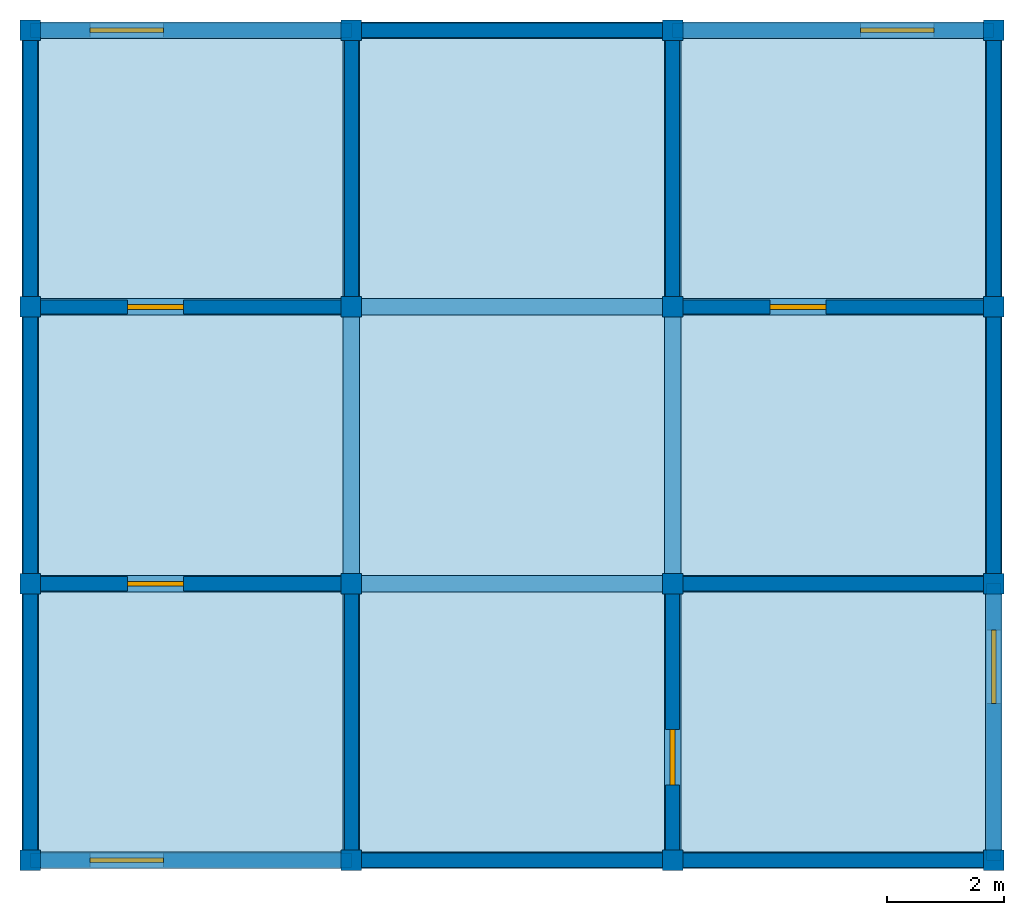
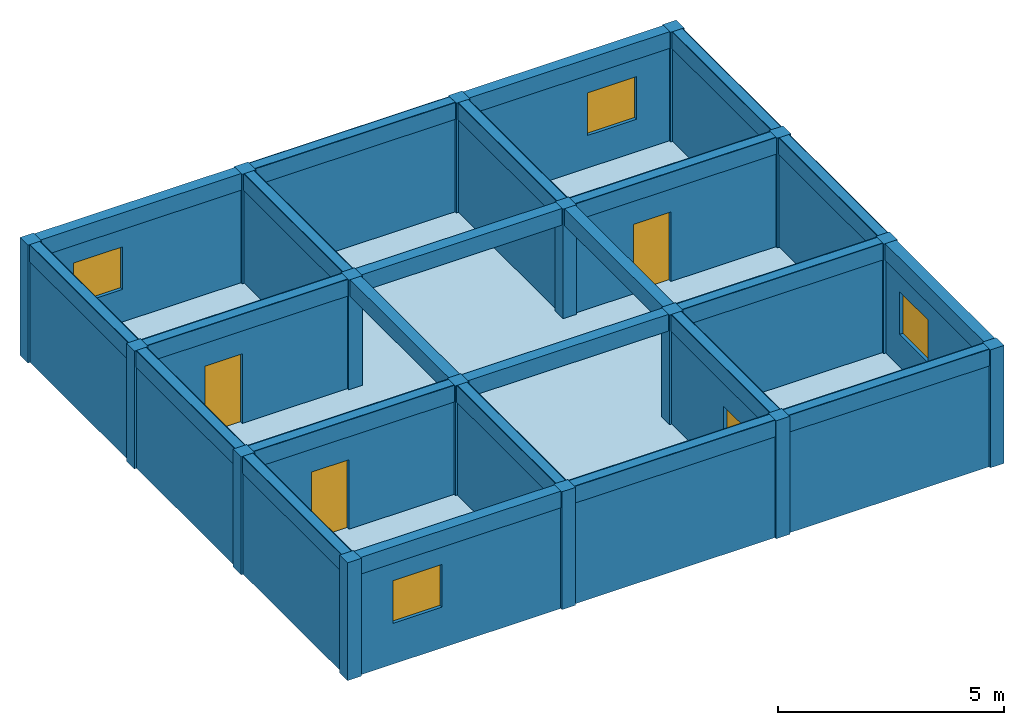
# One storey: 24 beams, 20 walls, 16 columns, 4 doors, 4 windows, 1 slab, 8 openings.
"""IFC4X3 building model written with IfcOpenShell, lengths in metres."""

from ifc_helpers import new_model, si_unit, frame, origin_with_axes, origin_2d, place, context, project, spatial, rectangle, extrude, material, element, fill, save


model = new_model("IFC4X3")

# Units and contexts
model_context = context("Model", 3, precision=1e-05, world=origin_with_axes())
ifc_project = project(units=[si_unit("LENGTHUNIT", "METRE"), si_unit("AREAUNIT", "SQUARE_METRE"), si_unit("VOLUMEUNIT", "CUBIC_METRE")], contexts=[model_context])

# Site, building, storey
site = spatial("IfcSite", under=ifc_project, Name="Antofagasta Parcel", CompositionType="ELEMENT")
building = spatial("IfcBuilding", under=site, Name="Nexo Block", CompositionType="ELEMENT")
storey = spatial("IfcBuildingStorey", under=building, Name="Level 8", CompositionType="ELEMENT", Elevation=22.27)

# Columns
ifc_material_1 = material(Name="Timber")
column_1_placement = place(None, frame((-8.2, -7.065, 22.266), z_axis=(0.0, 0.0, 1.0), x_axis=(1.0, 0.0, 0.0)))
element("IfcColumn", 1, at=column_1_placement, inside=storey, material=ifc_material_1, Name="Column 8.1", ObjectType="Structural Column", PredefinedType="USERDEFINED", context=model_context, shape_type="SweptSolid", body=[
    extrude(rectangle(XDim=0.35, YDim=0.35, at=origin_2d()), origin_with_axes(), (0.0, 0.0, 1.0), 3.181),
])
column_2_placement = place(None, frame((-8.2, -2.355, 22.266), z_axis=(0.0, 0.0, 1.0), x_axis=(1.0, 0.0, 0.0)))
element("IfcColumn", 2, at=column_2_placement, inside=storey, material=ifc_material_1, Name="Column 8.2", ObjectType="Corner Column", PredefinedType="USERDEFINED", context=model_context, shape_type="SweptSolid", body=[
    extrude(rectangle(XDim=0.35, YDim=0.35, at=origin_2d()), origin_with_axes(), (0.0, 0.0, 1.0), 3.181),
])
column_3_placement = place(None, frame((-8.2, 2.355, 22.266), z_axis=(0.0, 0.0, 1.0), x_axis=(1.0, 0.0, 0.0)))
element("IfcColumn", 3, at=column_3_placement, inside=storey, material=ifc_material_1, Name="Column 8.3", ObjectType="Structural Column", PredefinedType="PILASTER", context=model_context, shape_type="SweptSolid", body=[
    extrude(rectangle(XDim=0.35, YDim=0.35, at=origin_2d()), origin_with_axes(), (0.0, 0.0, 1.0), 3.181),
])
column_4_placement = place(None, frame((-8.2, 7.065, 22.266), z_axis=(0.0, 0.0, 1.0), x_axis=(1.0, 0.0, 0.0)))
element("IfcColumn", 4, at=column_4_placement, inside=storey, material=ifc_material_1, Name="Column 8.4", ObjectType="Core Column", PredefinedType="COLUMN", context=model_context, shape_type="SweptSolid", body=[
    extrude(rectangle(XDim=0.35, YDim=0.35, at=origin_2d()), origin_with_axes(), (0.0, 0.0, 1.0), 3.181),
])
for number, where, z_axis, x_axis, name in (
    (5, (-2.733, -7.065, 22.266), (0.0, 0.0, 1.0), (1.0, 0.0, 0.0), "Column 8.5"),
    (6, (-2.733, -2.355, 22.266), (0.0, 0.0, 1.0), (1.0, 0.0, 0.0), "Column 8.6"),
):
    element("IfcColumn", number, at=place(None, frame(where, z_axis=z_axis, x_axis=x_axis)), inside=storey, material=ifc_material_1, Name=name, ObjectType="Structural Column", PredefinedType="PILASTER", context=model_context, shape_type="SweptSolid", body=[
        extrude(rectangle(XDim=0.35, YDim=0.35, at=origin_2d()), origin_with_axes(), (0.0, 0.0, 1.0), 3.181),
    ])
column_5_placement = place(None, frame((-2.733, 2.355, 22.266), z_axis=(0.0, 0.0, 1.0), x_axis=(1.0, 0.0, 0.0)))
element("IfcColumn", 7, at=column_5_placement, inside=storey, material=ifc_material_1, Name="Column 8.7", ObjectType="Structural Column", PredefinedType="USERDEFINED", context=model_context, shape_type="SweptSolid", body=[
    extrude(rectangle(XDim=0.35, YDim=0.35, at=origin_2d()), origin_with_axes(), (0.0, 0.0, 1.0), 3.181),
])
column_6_placement = place(None, frame((-2.733, 7.065, 22.266), z_axis=(0.0, 0.0, 1.0), x_axis=(1.0, 0.0, 0.0)))
element("IfcColumn", 8, at=column_6_placement, inside=storey, material=ifc_material_1, Name="Column 8.8", ObjectType="Corner Column", PredefinedType="PILASTER", context=model_context, shape_type="SweptSolid", body=[
    extrude(rectangle(XDim=0.35, YDim=0.35, at=origin_2d()), origin_with_axes(), (0.0, 0.0, 1.0), 3.181),
])
column_7_placement = place(None, frame((2.734, -7.065, 22.266), z_axis=(0.0, 0.0, 1.0), x_axis=(1.0, 0.0, 0.0)))
element("IfcColumn", 9, at=column_7_placement, inside=storey, material=ifc_material_1, Name="Column 8.9", ObjectType="Facade Column", PredefinedType="COLUMN", context=model_context, shape_type="SweptSolid", body=[
    extrude(rectangle(XDim=0.35, YDim=0.35, at=origin_2d()), origin_with_axes(), (0.0, 0.0, 1.0), 3.181),
])
column_8_placement = place(None, frame((2.734, -2.355, 22.266), z_axis=(0.0, 0.0, 1.0), x_axis=(1.0, 0.0, 0.0)))
element("IfcColumn", 10, at=column_8_placement, inside=storey, material=ifc_material_1, Name="Column 8.10", ObjectType="Facade Column", PredefinedType="PILASTER", context=model_context, shape_type="SweptSolid", body=[
    extrude(rectangle(XDim=0.35, YDim=0.35, at=origin_2d()), origin_with_axes(), (0.0, 0.0, 1.0), 3.181),
])
column_9_placement = place(None, frame((2.734, 2.355, 22.266), z_axis=(0.0, 0.0, 1.0), x_axis=(1.0, 0.0, 0.0)))
element("IfcColumn", 11, at=column_9_placement, inside=storey, material=ifc_material_1, Name="Column 8.11", ObjectType="Corner Column", PredefinedType="USERDEFINED", context=model_context, shape_type="SweptSolid", body=[
    extrude(rectangle(XDim=0.35, YDim=0.35, at=origin_2d()), origin_with_axes(), (0.0, 0.0, 1.0), 3.181),
])
column_10_placement = place(None, frame((2.734, 7.065, 22.266), z_axis=(0.0, 0.0, 1.0), x_axis=(1.0, 0.0, 0.0)))
element("IfcColumn", 12, at=column_10_placement, inside=storey, material=ifc_material_1, Name="Column 8.12", ObjectType="Structural Column", PredefinedType="PILASTER", context=model_context, shape_type="SweptSolid", body=[
    extrude(rectangle(XDim=0.35, YDim=0.35, at=origin_2d()), origin_with_axes(), (0.0, 0.0, 1.0), 3.181),
])
column_11_placement = place(None, frame((8.201, -7.065, 22.266), z_axis=(0.0, 0.0, 1.0), x_axis=(1.0, 0.0, 0.0)))
element("IfcColumn", 13, at=column_11_placement, inside=storey, material=ifc_material_1, Name="Column 8.13", ObjectType="Corner Column", PredefinedType="COLUMN", context=model_context, shape_type="SweptSolid", body=[
    extrude(rectangle(XDim=0.35, YDim=0.35, at=origin_2d()), origin_with_axes(), (0.0, 0.0, 1.0), 3.181),
])
column_12_placement = place(None, frame((8.201, -2.355, 22.266), z_axis=(0.0, 0.0, 1.0), x_axis=(1.0, 0.0, 0.0)))
element("IfcColumn", 14, at=column_12_placement, inside=storey, material=ifc_material_1, Name="Column 8.14", ObjectType="Facade Column", PredefinedType="USERDEFINED", context=model_context, shape_type="SweptSolid", body=[
    extrude(rectangle(XDim=0.35, YDim=0.35, at=origin_2d()), origin_with_axes(), (0.0, 0.0, 1.0), 3.181),
])
column_13_placement = place(None, frame((8.201, 2.355, 22.266), z_axis=(0.0, 0.0, 1.0), x_axis=(1.0, 0.0, 0.0)))
element("IfcColumn", 15, at=column_13_placement, inside=storey, material=ifc_material_1, Name="Column 8.15", ObjectType="Corner Column", PredefinedType="COLUMN", context=model_context, shape_type="SweptSolid", body=[
    extrude(rectangle(XDim=0.35, YDim=0.35, at=origin_2d()), origin_with_axes(), (0.0, 0.0, 1.0), 3.181),
])
column_14_placement = place(None, frame((8.201, 7.065, 22.266), z_axis=(0.0, 0.0, 1.0), x_axis=(1.0, 0.0, 0.0)))
element("IfcColumn", 16, at=column_14_placement, inside=storey, material=ifc_material_1, Name="Column 8.16", ObjectType="Corner Column", PredefinedType="PILASTER", context=model_context, shape_type="SweptSolid", body=[
    extrude(rectangle(XDim=0.35, YDim=0.35, at=origin_2d()), origin_with_axes(), (0.0, 0.0, 1.0), 3.181),
])

# Beams
beam_1_placement = place(None, frame((-5.466, -7.065, 24.997), z_axis=(0.0, 0.0, 1.0), x_axis=(1.0, 0.0, 0.0)))
element("IfcBeam", 17, at=beam_1_placement, inside=storey, material=ifc_material_1, Name="Beam 8.1", ObjectType="Secondary Beam", PredefinedType="NOTDEFINED", context=model_context, shape_type="SweptSolid", body=[
    extrude(rectangle(XDim=5.467, YDim=0.28, at=origin_2d()), origin_with_axes(), (0.0, 0.0, 1.0), 0.45),
])
beam_2_placement = place(None, frame((0.0, -7.065, 24.997), z_axis=(0.0, 0.0, 1.0), x_axis=(1.0, 0.0, 0.0)))
element("IfcBeam", 18, at=beam_2_placement, inside=storey, material=ifc_material_1, Name="Beam 8.2", ObjectType="Secondary Beam", PredefinedType="T_BEAM", context=model_context, shape_type="SweptSolid", body=[
    extrude(rectangle(XDim=5.467, YDim=0.28, at=origin_2d()), origin_with_axes(), (0.0, 0.0, 1.0), 0.45),
])
beam_3_placement = place(None, frame((5.468, -7.065, 24.997), z_axis=(0.0, 0.0, 1.0), x_axis=(1.0, 0.0, 0.0)))
element("IfcBeam", 19, at=beam_3_placement, inside=storey, material=ifc_material_1, Name="Beam 8.3", ObjectType="Rafter Beam", PredefinedType="BEAM", context=model_context, shape_type="SweptSolid", body=[
    extrude(rectangle(XDim=5.467, YDim=0.28, at=origin_2d()), origin_with_axes(), (0.0, 0.0, 1.0), 0.45),
])
beam_4_placement = place(None, frame((-5.466, -2.355, 24.997), z_axis=(0.0, 0.0, 1.0), x_axis=(1.0, 0.0, 0.0)))
element("IfcBeam", 20, at=beam_4_placement, inside=storey, material=ifc_material_1, Name="Beam 8.4", ObjectType="Primary Beam", PredefinedType="JOIST", context=model_context, shape_type="SweptSolid", body=[
    extrude(rectangle(XDim=5.467, YDim=0.28, at=origin_2d()), origin_with_axes(), (0.0, 0.0, 1.0), 0.45),
])
beam_5_placement = place(None, frame((0.0, -2.355, 24.997), z_axis=(0.0, 0.0, 1.0), x_axis=(1.0, 0.0, 0.0)))
element("IfcBeam", 21, at=beam_5_placement, inside=storey, material=ifc_material_1, Name="Beam 8.5", ObjectType="Rafter Beam", PredefinedType="LINTEL", context=model_context, shape_type="SweptSolid", body=[
    extrude(rectangle(XDim=5.467, YDim=0.28, at=origin_2d()), origin_with_axes(), (0.0, 0.0, 1.0), 0.45),
])
beam_6_placement = place(None, frame((5.468, -2.355, 24.997), z_axis=(0.0, 0.0, 1.0), x_axis=(1.0, 0.0, 0.0)))
element("IfcBeam", 22, at=beam_6_placement, inside=storey, material=ifc_material_1, Name="Beam 8.6", ObjectType="Primary Beam", PredefinedType="SPANDREL", context=model_context, shape_type="SweptSolid", body=[
    extrude(rectangle(XDim=5.467, YDim=0.28, at=origin_2d()), origin_with_axes(), (0.0, 0.0, 1.0), 0.45),
])
beam_7_placement = place(None, frame((-5.466, 2.355, 24.997), z_axis=(0.0, 0.0, 1.0), x_axis=(1.0, 0.0, 0.0)))
element("IfcBeam", 23, at=beam_7_placement, inside=storey, material=ifc_material_1, Name="Beam 8.7", ObjectType="Primary Beam", PredefinedType="NOTDEFINED", context=model_context, shape_type="SweptSolid", body=[
    extrude(rectangle(XDim=5.467, YDim=0.28, at=origin_2d()), origin_with_axes(), (0.0, 0.0, 1.0), 0.45),
])
beam_8_placement = place(None, frame((0.0, 2.355, 24.997), z_axis=(0.0, 0.0, 1.0), x_axis=(1.0, 0.0, 0.0)))
element("IfcBeam", 24, at=beam_8_placement, inside=storey, material=ifc_material_1, Name="Beam 8.8", ObjectType="Primary Beam", PredefinedType="HOLLOWCORE", context=model_context, shape_type="SweptSolid", body=[
    extrude(rectangle(XDim=5.467, YDim=0.28, at=origin_2d()), origin_with_axes(), (0.0, 0.0, 1.0), 0.45),
])
beam_9_placement = place(None, frame((5.468, 2.355, 24.997), z_axis=(0.0, 0.0, 1.0), x_axis=(1.0, 0.0, 0.0)))
element("IfcBeam", 25, at=beam_9_placement, inside=storey, material=ifc_material_1, Name="Beam 8.9", ObjectType="Ridge Beam", PredefinedType="SPANDREL", context=model_context, shape_type="SweptSolid", body=[
    extrude(rectangle(XDim=5.467, YDim=0.28, at=origin_2d()), origin_with_axes(), (0.0, 0.0, 1.0), 0.45),
])
beam_10_placement = place(None, frame((-5.466, 7.065, 24.997), z_axis=(0.0, 0.0, 1.0), x_axis=(1.0, 0.0, 0.0)))
element("IfcBeam", 26, at=beam_10_placement, inside=storey, material=ifc_material_1, Name="Beam 8.10", ObjectType="Ridge Beam", PredefinedType="BEAM", context=model_context, shape_type="SweptSolid", body=[
    extrude(rectangle(XDim=5.467, YDim=0.28, at=origin_2d()), origin_with_axes(), (0.0, 0.0, 1.0), 0.45),
])
beam_11_placement = place(None, frame((0.0, 7.065, 24.997), z_axis=(0.0, 0.0, 1.0), x_axis=(1.0, 0.0, 0.0)))
element("IfcBeam", 27, at=beam_11_placement, inside=storey, material=ifc_material_1, Name="Beam 8.11", ObjectType="Primary Beam", PredefinedType="T_BEAM", context=model_context, shape_type="SweptSolid", body=[
    extrude(rectangle(XDim=5.467, YDim=0.28, at=origin_2d()), origin_with_axes(), (0.0, 0.0, 1.0), 0.45),
])
beam_12_placement = place(None, frame((5.468, 7.065, 24.997), z_axis=(0.0, 0.0, 1.0), x_axis=(1.0, 0.0, 0.0)))
element("IfcBeam", 28, at=beam_12_placement, inside=storey, material=ifc_material_1, Name="Beam 8.12", ObjectType="Primary Beam", PredefinedType="NOTDEFINED", context=model_context, shape_type="SweptSolid", body=[
    extrude(rectangle(XDim=5.467, YDim=0.28, at=origin_2d()), origin_with_axes(), (0.0, 0.0, 1.0), 0.45),
])
beam_13_placement = place(None, frame((-8.2, -4.71, 24.997), z_axis=(0.0, 0.0, 1.0), x_axis=(0.0, 1.0, 0.0)))
element("IfcBeam", 29, at=beam_13_placement, inside=storey, material=ifc_material_1, Name="Beam 8.13", ObjectType="Ridge Beam", PredefinedType="HOLLOWCORE", context=model_context, shape_type="SweptSolid", body=[
    extrude(rectangle(XDim=4.71, YDim=0.28, at=origin_2d()), origin_with_axes(), (0.0, 0.0, 1.0), 0.45),
])
beam_14_placement = place(None, frame((-8.2, 0.0, 24.997), z_axis=(0.0, 0.0, 1.0), x_axis=(0.0, 1.0, 0.0)))
element("IfcBeam", 30, at=beam_14_placement, inside=storey, material=ifc_material_1, Name="Beam 8.14", ObjectType="Primary Beam", PredefinedType="BEAM", context=model_context, shape_type="SweptSolid", body=[
    extrude(rectangle(XDim=4.71, YDim=0.28, at=origin_2d()), origin_with_axes(), (0.0, 0.0, 1.0), 0.45),
])
beam_15_placement = place(None, frame((-8.2, 4.71, 24.997), z_axis=(0.0, 0.0, 1.0), x_axis=(0.0, 1.0, 0.0)))
element("IfcBeam", 31, at=beam_15_placement, inside=storey, material=ifc_material_1, Name="Beam 8.15", ObjectType="Primary Beam", PredefinedType="LINTEL", context=model_context, shape_type="SweptSolid", body=[
    extrude(rectangle(XDim=4.71, YDim=0.28, at=origin_2d()), origin_with_axes(), (0.0, 0.0, 1.0), 0.45),
])
beam_16_placement = place(None, frame((-2.733, -4.71, 24.997), z_axis=(0.0, 0.0, 1.0), x_axis=(0.0, 1.0, 0.0)))
element("IfcBeam", 32, at=beam_16_placement, inside=storey, material=ifc_material_1, Name="Beam 8.16", ObjectType="Transfer Beam", PredefinedType="NOTDEFINED", context=model_context, shape_type="SweptSolid", body=[
    extrude(rectangle(XDim=4.71, YDim=0.28, at=origin_2d()), origin_with_axes(), (0.0, 0.0, 1.0), 0.45),
])
beam_17_placement = place(None, frame((-2.733, 0.0, 24.997), z_axis=(0.0, 0.0, 1.0), x_axis=(0.0, 1.0, 0.0)))
element("IfcBeam", 33, at=beam_17_placement, inside=storey, material=ifc_material_1, Name="Beam 8.17", ObjectType="Secondary Beam", PredefinedType="LINTEL", context=model_context, shape_type="SweptSolid", body=[
    extrude(rectangle(XDim=4.71, YDim=0.28, at=origin_2d()), origin_with_axes(), (0.0, 0.0, 1.0), 0.45),
])
beam_18_placement = place(None, frame((-2.733, 4.71, 24.997), z_axis=(0.0, 0.0, 1.0), x_axis=(0.0, 1.0, 0.0)))
element("IfcBeam", 34, at=beam_18_placement, inside=storey, material=ifc_material_1, Name="Beam 8.18", ObjectType="Primary Beam", PredefinedType="SPANDREL", context=model_context, shape_type="SweptSolid", body=[
    extrude(rectangle(XDim=4.71, YDim=0.28, at=origin_2d()), origin_with_axes(), (0.0, 0.0, 1.0), 0.45),
])
beam_19_placement = place(None, frame((2.734, -4.71, 24.997), z_axis=(0.0, 0.0, 1.0), x_axis=(0.0, 1.0, 0.0)))
element("IfcBeam", 35, at=beam_19_placement, inside=storey, material=ifc_material_1, Name="Beam 8.19", ObjectType="Transfer Beam", PredefinedType="SPANDREL", context=model_context, shape_type="SweptSolid", body=[
    extrude(rectangle(XDim=4.71, YDim=0.28, at=origin_2d()), origin_with_axes(), (0.0, 0.0, 1.0), 0.45),
])
beam_20_placement = place(None, frame((2.734, 0.0, 24.997), z_axis=(0.0, 0.0, 1.0), x_axis=(0.0, 1.0, 0.0)))
element("IfcBeam", 36, at=beam_20_placement, inside=storey, material=ifc_material_1, Name="Beam 8.20", ObjectType="Secondary Beam", PredefinedType="NOTDEFINED", context=model_context, shape_type="SweptSolid", body=[
    extrude(rectangle(XDim=4.71, YDim=0.28, at=origin_2d()), origin_with_axes(), (0.0, 0.0, 1.0), 0.45),
])
beam_21_placement = place(None, frame((2.734, 4.71, 24.997), z_axis=(0.0, 0.0, 1.0), x_axis=(0.0, 1.0, 0.0)))
element("IfcBeam", 37, at=beam_21_placement, inside=storey, material=ifc_material_1, Name="Beam 8.21", ObjectType="Primary Beam", PredefinedType="BEAM", context=model_context, shape_type="SweptSolid", body=[
    extrude(rectangle(XDim=4.71, YDim=0.28, at=origin_2d()), origin_with_axes(), (0.0, 0.0, 1.0), 0.45),
])
beam_22_placement = place(None, frame((8.201, -4.71, 24.997), z_axis=(0.0, 0.0, 1.0), x_axis=(0.0, 1.0, 0.0)))
element("IfcBeam", 38, at=beam_22_placement, inside=storey, material=ifc_material_1, Name="Beam 8.22", ObjectType="Primary Beam", PredefinedType="NOTDEFINED", context=model_context, shape_type="SweptSolid", body=[
    extrude(rectangle(XDim=4.71, YDim=0.28, at=origin_2d()), origin_with_axes(), (0.0, 0.0, 1.0), 0.45),
])
beam_23_placement = place(None, frame((8.201, 0.0, 24.997), z_axis=(0.0, 0.0, 1.0), x_axis=(0.0, 1.0, 0.0)))
element("IfcBeam", 39, at=beam_23_placement, inside=storey, material=ifc_material_1, Name="Beam 8.23", ObjectType="Secondary Beam", PredefinedType="USERDEFINED", context=model_context, shape_type="SweptSolid", body=[
    extrude(rectangle(XDim=4.71, YDim=0.28, at=origin_2d()), origin_with_axes(), (0.0, 0.0, 1.0), 0.45),
])
beam_24_placement = place(None, frame((8.201, 4.71, 24.997), z_axis=(0.0, 0.0, 1.0), x_axis=(0.0, 1.0, 0.0)))
element("IfcBeam", 40, at=beam_24_placement, inside=storey, material=ifc_material_1, Name="Beam 8.24", ObjectType="Primary Beam", PredefinedType="NOTDEFINED", context=model_context, shape_type="SweptSolid", body=[
    extrude(rectangle(XDim=4.71, YDim=0.28, at=origin_2d()), origin_with_axes(), (0.0, 0.0, 1.0), 0.45),
])

# Slab
ifc_material_2 = material(Name="Composite")
slab_placement = place(None, frame((0.0, 0.0, 22.27), z_axis=(0.0, 0.0, 1.0), x_axis=(1.0, 0.0, 0.0)))
element("IfcSlab", 41, at=slab_placement, inside=storey, material=ifc_material_2, Name="Slab 8", ObjectType="Floor Slab", PredefinedType="FLOOR", context=model_context, shape_type="SweptSolid", body=[
    extrude(rectangle(XDim=16.4, YDim=14.13, at=origin_2d()), origin_with_axes(), (0.0, 0.0, 1.0), 0.22),
])

# Wall, opening, door
ifc_material_3 = material(Name="CLT")
wall_1_placement = place(None, frame((-5.466, -2.355, 22.266), z_axis=(0.0, 0.0, 1.0), x_axis=(1.0, 0.0, 0.0)))
wall_1 = element("IfcWall", 42, at=wall_1_placement, inside=storey, material=ifc_material_3, Name="Wall 8.1", ObjectType="Corridor Partition", PredefinedType="SHEAR", context=model_context, shape_type="SweptSolid", body=[
    extrude(rectangle(XDim=5.467, YDim=0.244946, at=origin_2d()), origin_with_axes(), (0.0, 0.0, 1.0), 3.181),
])
opening_1_placement = place(None, frame((-6.066, -2.355, 22.266), z_axis=(0.0, 0.0, 1.0), x_axis=(1.0, 0.0, 0.0)))
opening_1 = element("IfcOpeningElement", 43, at=opening_1_placement, cuts=wall_1, Name="Door opening 8.1", ObjectType="Door Opening", PredefinedType="OPENING", context=model_context, shape_type="SweptSolid", body=[
    extrude(rectangle(XDim=0.95, YDim=0.324946, at=origin_2d()), origin_with_axes(), (0.0, 0.0, 1.0), 2.1),
])
door_1_placement = place(None, frame((-6.066, -2.355, 22.266), z_axis=(0.0, 0.0, 1.0), x_axis=(1.0, 0.0, 0.0)))
door_1 = element("IfcDoor", 44, at=door_1_placement, inside=storey, Name="Door 8.1", ObjectType="Interior Door", OverallHeight=2.1, OverallWidth=0.95, context=model_context, shape_type="SweptSolid", body=[
    extrude(rectangle(XDim=0.95, YDim=0.08, at=origin_2d()), origin_with_axes(), (0.0, 0.0, 1.0), 2.1),
])
fill(opening_1, door_1)

# Wall
ifc_material_4 = material(Name="Concrete")
wall_2_placement = place(None, frame((-2.7325, -4.71, 22.266), z_axis=(0.0, 0.0, 1.0), x_axis=(0.0, 1.0, 0.0)))
element("IfcWall", 45, at=wall_2_placement, inside=storey, material=ifc_material_4, Name="Wall 8.2", ObjectType="Corridor Partition", PredefinedType="STANDARD", context=model_context, shape_type="SweptSolid", body=[
    extrude(rectangle(XDim=4.71, YDim=0.244946, at=origin_2d()), origin_with_axes(), (0.0, 0.0, 1.0), 3.181),
])

# Wall, opening, window
wall_3_placement = place(None, frame((-5.466, -7.065, 22.266), z_axis=(0.0, 0.0, 1.0), x_axis=(1.0, 0.0, 0.0)))
wall_3 = element("IfcWall", 46, at=wall_3_placement, inside=storey, material=ifc_material_3, Name="Wall 8.3", ObjectType="Exterior Wall", PredefinedType="STANDARD", context=model_context, shape_type="SweptSolid", body=[
    extrude(rectangle(XDim=5.467, YDim=0.244946, at=origin_2d()), origin_with_axes(), (0.0, 0.0, 1.0), 3.181),
])
opening_2_placement = place(None, frame((-6.559, -7.065, 23.366), z_axis=(0.0, 0.0, 1.0), x_axis=(1.0, 0.0, 0.0)))
opening_2 = element("IfcOpeningElement", 47, at=opening_2_placement, cuts=wall_3, Name="Window opening 8.2", ObjectType="Window Opening", PredefinedType="OPENING", context=model_context, shape_type="SweptSolid", body=[
    extrude(rectangle(XDim=1.25, YDim=0.324946, at=origin_2d()), origin_with_axes(), (0.0, 0.0, 1.0), 1.15),
])
window_1_placement = place(None, frame((-6.559, -7.065, 23.366), z_axis=(0.0, 0.0, 1.0), x_axis=(1.0, 0.0, 0.0)))
window_1 = element("IfcWindow", 48, at=window_1_placement, inside=storey, Name="Window 8.2", ObjectType="Curtain Window", OverallHeight=1.15, OverallWidth=1.25, context=model_context, shape_type="SweptSolid", body=[
    extrude(rectangle(XDim=1.25, YDim=0.08, at=origin_2d()), origin_with_axes(), (0.0, 0.0, 1.0), 1.15),
])
fill(opening_2, window_1)

# Wall
ifc_material_5 = material(Name="Brick")
wall_4_placement = place(None, frame((-8.1995, -4.71, 22.266), z_axis=(0.0, 0.0, 1.0), x_axis=(0.0, 1.0, 0.0)))
element("IfcWall", 49, at=wall_4_placement, inside=storey, material=ifc_material_5, Name="Wall 8.4", ObjectType="Exterior Wall", PredefinedType="USERDEFINED", context=model_context, shape_type="SweptSolid", body=[
    extrude(rectangle(XDim=4.71, YDim=0.244946, at=origin_2d()), origin_with_axes(), (0.0, 0.0, 1.0), 3.181),
])

# Wall, opening, door
ifc_material_6 = material(Name="Gypsum")
wall_5_placement = place(None, frame((2.7335, -4.71, 22.266), z_axis=(0.0, 0.0, 1.0), x_axis=(0.0, 1.0, 0.0)))
wall_5 = element("IfcWall", 50, at=wall_5_placement, inside=storey, material=ifc_material_6, Name="Wall 8.5", ObjectType="Corridor Partition", PredefinedType="USERDEFINED", context=model_context, shape_type="SweptSolid", body=[
    extrude(rectangle(XDim=4.71, YDim=0.244946, at=origin_2d()), origin_with_axes(), (0.0, 0.0, 1.0), 3.181),
])
opening_3_placement = place(None, frame((2.733, -5.31, 22.266), z_axis=(0.0, 0.0, 1.0), x_axis=(0.0, 1.0, 0.0)))
opening_3 = element("IfcOpeningElement", 51, at=opening_3_placement, cuts=wall_5, Name="Door opening 8.3", ObjectType="Door Opening", PredefinedType="OPENING", context=model_context, shape_type="SweptSolid", body=[
    extrude(rectangle(XDim=0.95, YDim=0.324946, at=origin_2d()), origin_with_axes(), (0.0, 0.0, 1.0), 2.1),
])
door_2_placement = place(None, frame((2.733, -5.31, 22.266), z_axis=(0.0, 0.0, 1.0), x_axis=(0.0, 1.0, 0.0)))
door_2 = element("IfcDoor", 52, at=door_2_placement, inside=storey, Name="Door 8.3", ObjectType="Entry Door", OverallHeight=2.1, OverallWidth=0.95, context=model_context, shape_type="SweptSolid", body=[
    extrude(rectangle(XDim=0.95, YDim=0.08, at=origin_2d()), origin_with_axes(), (0.0, 0.0, 1.0), 2.1),
])
fill(opening_3, door_2)

# Walls
wall_6_placement = place(None, frame((0.0, -7.065, 22.266), z_axis=(0.0, 0.0, 1.0), x_axis=(1.0, 0.0, 0.0)))
element("IfcWall", 53, at=wall_6_placement, inside=storey, material=ifc_material_4, Name="Wall 8.6", ObjectType="Exterior Wall", PredefinedType="NOTDEFINED", context=model_context, shape_type="SweptSolid", body=[
    extrude(rectangle(XDim=5.467, YDim=0.244946, at=origin_2d()), origin_with_axes(), (0.0, 0.0, 1.0), 3.181),
])
wall_7_placement = place(None, frame((5.467, -2.355, 22.266), z_axis=(0.0, 0.0, 1.0), x_axis=(1.0, 0.0, 0.0)))
element("IfcWall", 54, at=wall_7_placement, inside=storey, material=ifc_material_5, Name="Wall 8.7", ObjectType="Corridor Partition", PredefinedType="USERDEFINED", context=model_context, shape_type="SweptSolid", body=[
    extrude(rectangle(XDim=5.467, YDim=0.244946, at=origin_2d()), origin_with_axes(), (0.0, 0.0, 1.0), 3.181),
])

# Wall, opening, window
wall_8_placement = place(None, frame((8.2005, -4.71, 22.266), z_axis=(0.0, 0.0, 1.0), x_axis=(0.0, 1.0, 0.0)))
wall_8 = element("IfcWall", 55, at=wall_8_placement, inside=storey, material=ifc_material_3, Name="Wall 8.8", ObjectType="Exterior Wall", PredefinedType="STANDARD", context=model_context, shape_type="SweptSolid", body=[
    extrude(rectangle(XDim=4.71, YDim=0.244946, at=origin_2d()), origin_with_axes(), (0.0, 0.0, 1.0), 3.181),
])
opening_4_placement = place(None, frame((8.2, -3.768, 23.366), z_axis=(0.0, 0.0, 1.0), x_axis=(0.0, 1.0, 0.0)))
opening_4 = element("IfcOpeningElement", 56, at=opening_4_placement, cuts=wall_8, Name="Window opening 8.4", ObjectType="Window Opening", PredefinedType="OPENING", context=model_context, shape_type="SweptSolid", body=[
    extrude(rectangle(XDim=1.25, YDim=0.324946, at=origin_2d()), origin_with_axes(), (0.0, 0.0, 1.0), 1.15),
])
window_2_placement = place(None, frame((8.2, -3.768, 23.366), z_axis=(0.0, 0.0, 1.0), x_axis=(0.0, 1.0, 0.0)))
window_2 = element("IfcWindow", 57, at=window_2_placement, inside=storey, Name="Window 8.4", ObjectType="Louvre Window", OverallHeight=1.15, OverallWidth=1.25, context=model_context, shape_type="SweptSolid", body=[
    extrude(rectangle(XDim=1.25, YDim=0.08, at=origin_2d()), origin_with_axes(), (0.0, 0.0, 1.0), 1.15),
])
fill(opening_4, window_2)

# Wall
wall_9_placement = place(None, frame((5.467, -7.065, 22.266), z_axis=(0.0, 0.0, 1.0), x_axis=(1.0, 0.0, 0.0)))
element("IfcWall", 58, at=wall_9_placement, inside=storey, material=ifc_material_6, Name="Wall 8.9", ObjectType="Exterior Wall", PredefinedType="POLYGONAL", context=model_context, shape_type="SweptSolid", body=[
    extrude(rectangle(XDim=5.467, YDim=0.244946, at=origin_2d()), origin_with_axes(), (0.0, 0.0, 1.0), 3.181),
])

# Wall, opening, door
wall_10_placement = place(None, frame((-5.466, 2.355, 22.266), z_axis=(0.0, 0.0, 1.0), x_axis=(1.0, 0.0, 0.0)))
wall_10 = element("IfcWall", 59, at=wall_10_placement, inside=storey, material=ifc_material_3, Name="Wall 8.10", ObjectType="Corridor Partition", PredefinedType="PARAPET", context=model_context, shape_type="SweptSolid", body=[
    extrude(rectangle(XDim=5.467, YDim=0.244946, at=origin_2d()), origin_with_axes(), (0.0, 0.0, 1.0), 3.181),
])
opening_5_placement = place(None, frame((-6.066, 2.355, 22.266), z_axis=(0.0, 0.0, 1.0), x_axis=(1.0, 0.0, 0.0)))
opening_5 = element("IfcOpeningElement", 60, at=opening_5_placement, cuts=wall_10, Name="Door opening 8.5", ObjectType="Door Opening", PredefinedType="OPENING", context=model_context, shape_type="SweptSolid", body=[
    extrude(rectangle(XDim=0.95, YDim=0.324946, at=origin_2d()), origin_with_axes(), (0.0, 0.0, 1.0), 2.1),
])
door_3_placement = place(None, frame((-6.066, 2.355, 22.266), z_axis=(0.0, 0.0, 1.0), x_axis=(1.0, 0.0, 0.0)))
door_3 = element("IfcDoor", 61, at=door_3_placement, inside=storey, Name="Door 8.5", ObjectType="Entry Door", OverallHeight=2.1, OverallWidth=0.95, context=model_context, shape_type="SweptSolid", body=[
    extrude(rectangle(XDim=0.95, YDim=0.08, at=origin_2d()), origin_with_axes(), (0.0, 0.0, 1.0), 2.1),
])
fill(opening_5, door_3)

# Wall
wall_11_placement = place(None, frame((-8.1995, 0.0, 22.266), z_axis=(0.0, 0.0, 1.0), x_axis=(0.0, 1.0, 0.0)))
element("IfcWall", 62, at=wall_11_placement, inside=storey, material=ifc_material_5, Name="Wall 8.11", ObjectType="Exterior Wall", PredefinedType="NOTDEFINED", context=model_context, shape_type="SweptSolid", body=[
    extrude(rectangle(XDim=4.71, YDim=0.244946, at=origin_2d()), origin_with_axes(), (0.0, 0.0, 1.0), 3.181),
])

# Wall, opening, door
wall_12_placement = place(None, frame((5.467, 2.355, 22.266), z_axis=(0.0, 0.0, 1.0), x_axis=(1.0, 0.0, 0.0)))
wall_12 = element("IfcWall", 63, at=wall_12_placement, inside=storey, material=ifc_material_4, Name="Wall 8.12", ObjectType="Corridor Partition", PredefinedType="PARTITIONING", context=model_context, shape_type="SweptSolid", body=[
    extrude(rectangle(XDim=5.467, YDim=0.244946, at=origin_2d()), origin_with_axes(), (0.0, 0.0, 1.0), 3.181),
])
opening_6_placement = place(None, frame((4.867, 2.355, 22.266), z_axis=(0.0, 0.0, 1.0), x_axis=(1.0, 0.0, 0.0)))
opening_6 = element("IfcOpeningElement", 64, at=opening_6_placement, cuts=wall_12, Name="Door opening 8.7", ObjectType="Door Opening", PredefinedType="OPENING", context=model_context, shape_type="SweptSolid", body=[
    extrude(rectangle(XDim=0.95, YDim=0.324946, at=origin_2d()), origin_with_axes(), (0.0, 0.0, 1.0), 2.1),
])
door_4_placement = place(None, frame((4.867, 2.355, 22.266), z_axis=(0.0, 0.0, 1.0), x_axis=(1.0, 0.0, 0.0)))
door_4 = element("IfcDoor", 65, at=door_4_placement, inside=storey, Name="Door 8.7", ObjectType="Interior Door", OverallHeight=2.1, OverallWidth=0.95, context=model_context, shape_type="SweptSolid", body=[
    extrude(rectangle(XDim=0.95, YDim=0.08, at=origin_2d()), origin_with_axes(), (0.0, 0.0, 1.0), 2.1),
])
fill(opening_6, door_4)

# Wall
wall_13_placement = place(None, frame((8.2005, 0.0, 22.266), z_axis=(0.0, 0.0, 1.0), x_axis=(0.0, 1.0, 0.0)))
element("IfcWall", 66, at=wall_13_placement, inside=storey, material=ifc_material_4, Name="Wall 8.13", ObjectType="Exterior Wall", PredefinedType="MOVABLE", context=model_context, shape_type="SweptSolid", body=[
    extrude(rectangle(XDim=4.71, YDim=0.244946, at=origin_2d()), origin_with_axes(), (0.0, 0.0, 1.0), 3.181),
])

# Wall, opening, window
wall_14_placement = place(None, frame((-5.466, 7.065, 22.266), z_axis=(0.0, 0.0, 1.0), x_axis=(1.0, 0.0, 0.0)))
wall_14 = element("IfcWall", 67, at=wall_14_placement, inside=storey, material=ifc_material_5, Name="Wall 8.14", ObjectType="Exterior Wall", PredefinedType="ELEMENTEDWALL", context=model_context, shape_type="SweptSolid", body=[
    extrude(rectangle(XDim=5.467, YDim=0.244946, at=origin_2d()), origin_with_axes(), (0.0, 0.0, 1.0), 3.181),
])
opening_7_placement = place(None, frame((-6.559, 7.065, 23.366), z_axis=(0.0, 0.0, 1.0), x_axis=(1.0, 0.0, 0.0)))
opening_7 = element("IfcOpeningElement", 68, at=opening_7_placement, cuts=wall_14, Name="Window opening 8.6", ObjectType="Window Opening", PredefinedType="OPENING", context=model_context, shape_type="SweptSolid", body=[
    extrude(rectangle(XDim=1.25, YDim=0.324946, at=origin_2d()), origin_with_axes(), (0.0, 0.0, 1.0), 1.15),
])
window_3_placement = place(None, frame((-6.559, 7.065, 23.366), z_axis=(0.0, 0.0, 1.0), x_axis=(1.0, 0.0, 0.0)))
window_3 = element("IfcWindow", 69, at=window_3_placement, inside=storey, Name="Window 8.6", ObjectType="Curtain Window", OverallHeight=1.15, OverallWidth=1.25, context=model_context, shape_type="SweptSolid", body=[
    extrude(rectangle(XDim=1.25, YDim=0.08, at=origin_2d()), origin_with_axes(), (0.0, 0.0, 1.0), 1.15),
])
fill(opening_7, window_3)

# Walls
wall_15_placement = place(None, frame((-2.7325, 4.71, 22.266), z_axis=(0.0, 0.0, 1.0), x_axis=(0.0, 1.0, 0.0)))
element("IfcWall", 70, at=wall_15_placement, inside=storey, material=ifc_material_4, Name="Wall 8.15", ObjectType="Corridor Partition", PredefinedType="STANDARD", context=model_context, shape_type="SweptSolid", body=[
    extrude(rectangle(XDim=4.71, YDim=0.244946, at=origin_2d()), origin_with_axes(), (0.0, 0.0, 1.0), 3.181),
])
wall_16_placement = place(None, frame((-8.1995, 4.71, 22.266), z_axis=(0.0, 0.0, 1.0), x_axis=(0.0, 1.0, 0.0)))
element("IfcWall", 71, at=wall_16_placement, inside=storey, material=ifc_material_6, Name="Wall 8.16", ObjectType="Exterior Wall", PredefinedType="ELEMENTEDWALL", context=model_context, shape_type="SweptSolid", body=[
    extrude(rectangle(XDim=4.71, YDim=0.244946, at=origin_2d()), origin_with_axes(), (0.0, 0.0, 1.0), 3.181),
])
wall_17_placement = place(None, frame((0.0, 7.065, 22.266), z_axis=(0.0, 0.0, 1.0), x_axis=(1.0, 0.0, 0.0)))
element("IfcWall", 72, at=wall_17_placement, inside=storey, material=ifc_material_5, Name="Wall 8.17", ObjectType="Exterior Wall", PredefinedType="PLUMBINGWALL", context=model_context, shape_type="SweptSolid", body=[
    extrude(rectangle(XDim=5.467, YDim=0.244946, at=origin_2d()), origin_with_axes(), (0.0, 0.0, 1.0), 3.181),
])
wall_18_placement = place(None, frame((2.7335, 4.71, 22.266), z_axis=(0.0, 0.0, 1.0), x_axis=(0.0, 1.0, 0.0)))
element("IfcWall", 73, at=wall_18_placement, inside=storey, material=ifc_material_3, Name="Wall 8.18", ObjectType="Corridor Partition", PredefinedType="PARTITIONING", context=model_context, shape_type="SweptSolid", body=[
    extrude(rectangle(XDim=4.71, YDim=0.244946, at=origin_2d()), origin_with_axes(), (0.0, 0.0, 1.0), 3.181),
])

# Wall, opening, window
wall_19_placement = place(None, frame((5.467, 7.065, 22.266), z_axis=(0.0, 0.0, 1.0), x_axis=(1.0, 0.0, 0.0)))
wall_19 = element("IfcWall", 74, at=wall_19_placement, inside=storey, material=ifc_material_5, Name="Wall 8.19", ObjectType="Exterior Wall", PredefinedType="USERDEFINED", context=model_context, shape_type="SweptSolid", body=[
    extrude(rectangle(XDim=5.467, YDim=0.244946, at=origin_2d()), origin_with_axes(), (0.0, 0.0, 1.0), 3.181),
])
opening_8_placement = place(None, frame((6.56, 7.065, 23.366), z_axis=(0.0, 0.0, 1.0), x_axis=(1.0, 0.0, 0.0)))
opening_8 = element("IfcOpeningElement", 75, at=opening_8_placement, cuts=wall_19, Name="Window opening 8.8", ObjectType="Window Opening", PredefinedType="OPENING", context=model_context, shape_type="SweptSolid", body=[
    extrude(rectangle(XDim=1.25, YDim=0.324946, at=origin_2d()), origin_with_axes(), (0.0, 0.0, 1.0), 1.15),
])
window_4_placement = place(None, frame((6.56, 7.065, 23.366), z_axis=(0.0, 0.0, 1.0), x_axis=(1.0, 0.0, 0.0)))
window_4 = element("IfcWindow", 76, at=window_4_placement, inside=storey, Name="Window 8.8", ObjectType="Louvre Window", OverallHeight=1.15, OverallWidth=1.25, context=model_context, shape_type="SweptSolid", body=[
    extrude(rectangle(XDim=1.25, YDim=0.08, at=origin_2d()), origin_with_axes(), (0.0, 0.0, 1.0), 1.15),
])
fill(opening_8, window_4)

# Wall
wall_20_placement = place(None, frame((8.2005, 4.71, 22.266), z_axis=(0.0, 0.0, 1.0), x_axis=(0.0, 1.0, 0.0)))
element("IfcWall", 77, at=wall_20_placement, inside=storey, material=ifc_material_6, Name="Wall 8.20", ObjectType="Exterior Wall", PredefinedType="USERDEFINED", context=model_context, shape_type="SweptSolid", body=[
    extrude(rectangle(XDim=4.71, YDim=0.244946, at=origin_2d()), origin_with_axes(), (0.0, 0.0, 1.0), 3.181),
])

save(model, "model.ifc")
